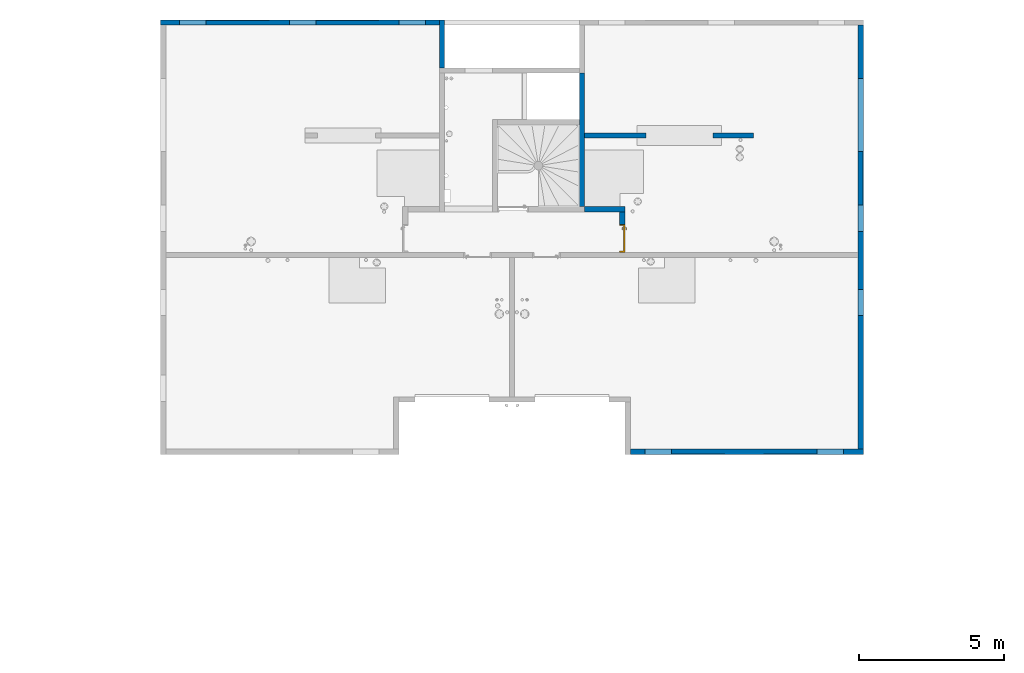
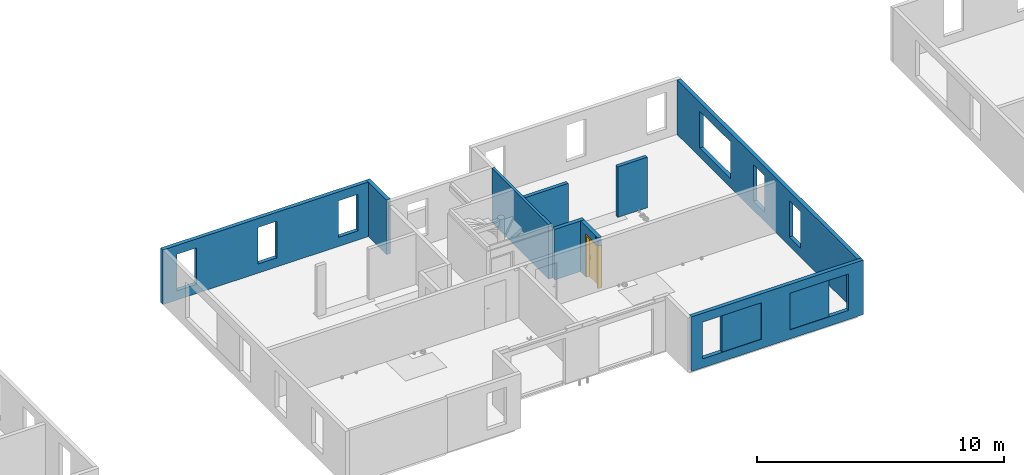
# One storey, part 10 of 24: 9 walls, 1 door, 15 openings.
"""IFC2X3 building model written with IfcOpenShell, lengths in centimetres."""

from ifc_helpers import new_model, entity, si_unit, converted_unit, derived_unit, direction, frame, frame_2d, origin, place, context, subcontext, project, spatial, polyline, rectangle, extrude, clip, bounded_halfspace, faceted_brep, source, transform, mapped, material, material_list, layer, layer_set, layer_usage, type_object, type_shapes, element, fill, save


model = new_model("IFC2X3")

# Units and contexts
model_context = context("Model", 3, precision=0.001, world=origin(), true_north=direction((6.12303176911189e-17, 1.0)))
body_context = subcontext(model_context, "Body", "Model", "MODEL_VIEW")
ifc_project = project(units=[si_unit("LENGTHUNIT", "METRE", prefix="CENTI"), si_unit("AREAUNIT", "SQUARE_METRE"), si_unit("VOLUMEUNIT", "CUBIC_METRE"), converted_unit("PLANEANGLEUNIT", "DEGREE", entity("IfcRatioMeasure", 0.0174532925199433), si_unit("PLANEANGLEUNIT", "RADIAN"), dimensions=[0, 0, 0, 0, 0, 0, 0]), si_unit("MASSUNIT", "GRAM", prefix="KILO"), derived_unit("MASSDENSITYUNIT", [(si_unit("MASSUNIT", "GRAM", prefix="KILO"), 1), (si_unit("LENGTHUNIT", "METRE"), -3)]), si_unit("TIMEUNIT", "SECOND"), si_unit("FREQUENCYUNIT", "HERTZ"), si_unit("THERMODYNAMICTEMPERATUREUNIT", "DEGREE_CELSIUS"), derived_unit("THERMALTRANSMITTANCEUNIT", [(si_unit("MASSUNIT", "GRAM", prefix="KILO"), 1), (si_unit("THERMODYNAMICTEMPERATUREUNIT", "KELVIN"), -1), (si_unit("TIMEUNIT", "SECOND"), -3)]), derived_unit("VOLUMETRICFLOWRATEUNIT", [(si_unit("LENGTHUNIT", "METRE"), 3), (si_unit("TIMEUNIT", "SECOND"), -1)]), si_unit("ELECTRICCURRENTUNIT", "AMPERE"), si_unit("ELECTRICVOLTAGEUNIT", "VOLT"), si_unit("POWERUNIT", "WATT"), si_unit("FORCEUNIT", "NEWTON"), si_unit("ILLUMINANCEUNIT", "LUX"), si_unit("LUMINOUSFLUXUNIT", "LUMEN"), si_unit("LUMINOUSINTENSITYUNIT", "CANDELA"), derived_unit("USERDEFINED", [(si_unit("MASSUNIT", "GRAM", prefix="KILO"), -1), (si_unit("LENGTHUNIT", "METRE"), -2), (si_unit("TIMEUNIT", "SECOND"), 3), (si_unit("LUMINOUSFLUXUNIT", "LUMEN"), 1)]), derived_unit("LINEARVELOCITYUNIT", [(si_unit("LENGTHUNIT", "METRE"), 1), (si_unit("TIMEUNIT", "SECOND"), -1)]), si_unit("PRESSUREUNIT", "PASCAL"), derived_unit("USERDEFINED", [(si_unit("LENGTHUNIT", "METRE"), -2), (si_unit("MASSUNIT", "GRAM", prefix="KILO"), 1), (si_unit("TIMEUNIT", "SECOND"), -2)])], contexts=[model_context])

# Site, building, storey
site_placement = place(None, origin())
site = spatial("IfcSite", under=ifc_project, at=site_placement, Name="Default", CompositionType="ELEMENT")
building_placement = place(site_placement, origin())
building = spatial("IfcBuilding", under=site, at=building_placement, Name="CAGE 03", CompositionType="ELEMENT")
storey_placement = place(building_placement, frame((0.0, 0.0, 1150.0)))
storey = spatial("IfcBuildingStorey", under=building, at=storey_placement, Name="R+4", CompositionType="ELEMENT", Elevation=1150.0)

# Wall, openings
ifc_material_1 = material(Name="Béton, C25/30")
ifc_layer_1 = layer(ifc_material_1, 18.0)
ifc_layer_set_1 = layer_set([ifc_layer_1], Name="Mur de base:Voile BA 18")
ifc_layer_usage_1 = layer_usage(ifc_layer_set_1, "AXIS2", "POSITIVE", -9.0)
wall_type_1 = type_object("IfcWallType", Name="Mur de base:Voile BA 18", PredefinedType="STANDARD", material=ifc_layer_set_1)
wall_1_placement = place(storey_placement, frame((7489.36582014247, 3805.6606660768, 0.0)))
wall_1 = element("IfcWallStandardCase", 1, at=wall_1_placement, inside=storey, type_object=wall_type_1, material=ifc_layer_usage_1, Name="Mur de base:Voile BA 18", ObjectType="Mur de base:Voile BA 18", context=body_context, shape_type="SweptSolid", body=[
    extrude(rectangle(XDim=803.000000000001, YDim=18.0000000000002, at=frame_2d((401.500000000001, -2.8421709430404e-14), x_axis=(-1.0, 0.0))), origin(), (0.0, 0.0, 1.0), 270.0),
])
opening_1_placement = place(wall_1_placement, origin())
element("IfcOpeningElement", 2, at=opening_1_placement, cuts=wall_1, Name="Mur de base:Voile BA 18", ObjectType="Recess", context=body_context, shape_type="SweptSolid", body=[
    extrude(rectangle(XDim=181.0, YDim=184.0, at=frame_2d((-1.06581410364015e-13, 0.0), x_axis=(1.0, 0.0))), frame((234.0, -9.0, 135.5), z_axis=(0.0, 1.0, 0.0), x_axis=(0.0, 0.0, -1.0)), (0.0, 0.0, 1.0), 1.99999999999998),
])
opening_2_placement = place(wall_1_placement, origin())
element("IfcOpeningElement", 3, at=opening_2_placement, cuts=wall_1, Name="Mur de base:Voile BA 18", ObjectType="Recess", context=body_context, shape_type="SweptSolid", body=[
    extrude(rectangle(XDim=181.0, YDim=184.0, at=frame_2d((-1.06581410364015e-13, 0.0), x_axis=(1.0, 0.0))), frame((551.0, -9.0, 135.5), z_axis=(0.0, 1.0, 0.0), x_axis=(0.0, 0.0, -1.0)), (0.0, 0.0, 1.0), 1.99999999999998),
])
opening_3_placement = place(wall_1_placement, frame((-7489.36582014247, -3805.6606660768, 0.0)))
element("IfcOpeningElement", 4, at=opening_3_placement, cuts=wall_1, Name="Mur de base:Voile BA 18", ObjectType="Opening", context=body_context, shape_type="SweptSolid", body=[
    extrude(rectangle(XDim=181.0, YDim=91.0000000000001, at=frame_2d((0.0, 1.06581410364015e-13), x_axis=(0.0, 1.0))), frame((7585.86582014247, 3644.2606660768, 135.5), z_axis=(0.0, 1.0, 0.0), x_axis=(-1.0, 0.0, 0.0)), (0.0, 0.0, 1.0), 304.8),
])
opening_4_placement = place(wall_1_placement, frame((-7489.36582014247, -3805.6606660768, 0.0)))
element("IfcOpeningElement", 5, at=opening_4_placement, cuts=wall_1, Name="Mur de base:Voile BA 18", ObjectType="Opening", context=body_context, shape_type="SweptSolid", body=[
    extrude(rectangle(XDim=181.0, YDim=91.0000000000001, at=frame_2d((0.0, 1.06581410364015e-13), x_axis=(0.0, 1.0))), frame((8177.86582014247, 3644.2606660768, 135.5), z_axis=(0.0, 1.0, 0.0), x_axis=(-1.0, 0.0, 0.0)), (0.0, 0.0, 1.0), 304.8),
])

ifc_layer_usage_2 = layer_usage(ifc_layer_set_1, "AXIS2", "POSITIVE", -9.0)
wall_2_placement = place(storey_placement, frame((8283.36582014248, 3814.6606660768, 0.0), z_axis=(0.0, 0.0, 1.0), x_axis=(0.0, 1.0, 0.0)))
wall_2 = element("IfcWallStandardCase", 6, at=wall_2_placement, inside=storey, type_object=wall_type_1, material=ifc_layer_usage_2, Name="Mur de base:Voile BA 18", ObjectType="Mur de base:Voile BA 18", context=body_context, shape_type="SweptSolid", body=[
    extrude(rectangle(XDim=1461.0, YDim=17.9999999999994, at=frame_2d((730.5, -3.92574861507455e-13), x_axis=(-1.0, 0.0))), origin(), (0.0, 0.0, 1.0), 270.0),
])
opening_5_placement = place(wall_2_placement, origin())
element("IfcOpeningElement", 7, at=opening_5_placement, cuts=wall_2, Name="Mur de base:Voile BA 18", ObjectType="Recess", context=body_context, shape_type="SweptSolid", body=[
    extrude(rectangle(XDim=181.0, YDim=184.0, at=frame_2d((-1.06581410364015e-13, 0.0), x_axis=(1.0, 0.0))), frame((934.0, -9.0, 135.5), z_axis=(0.0, 1.0, 0.0), x_axis=(0.0, 0.0, -1.0)), (0.0, 0.0, 1.0), 1.99999999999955),
])
opening_6_placement = place(wall_2_placement, frame((-3814.6606660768, 8283.36582014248, 0.0), z_axis=(0.0, 0.0, 1.0), x_axis=(0.0, -1.0, 0.0)))
element("IfcOpeningElement", 8, at=opening_6_placement, cuts=wall_2, Name="Mur de base:Voile BA 18", ObjectType="Opening", context=body_context, shape_type="SweptSolid", body=[
    extrude(rectangle(XDim=181.0, YDim=91.0000000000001, at=frame_2d((-2.1316282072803e-13, 0.0), x_axis=(1.0, 0.0))), frame((8426.76582014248, 4611.1606660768, 135.5), z_axis=(-1.0, 0.0, 0.0), x_axis=(0.0, 0.0, 1.0)), (0.0, 0.0, 1.0), 304.8),
])
opening_7_placement = place(wall_2_placement, frame((-3814.6606660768, 8283.36582014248, 0.0), z_axis=(0.0, 0.0, 1.0), x_axis=(0.0, -1.0, 0.0)))
element("IfcOpeningElement", 9, at=opening_7_placement, cuts=wall_2, Name="Mur de base:Voile BA 18", ObjectType="Opening", context=body_context, shape_type="SweptSolid", body=[
    extrude(rectangle(XDim=181.0, YDim=251.0, at=frame_2d((-2.1316282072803e-13, 0.0), x_axis=(1.0, 0.0))), frame((8426.76582014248, 4966.1606660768, 135.5), z_axis=(-1.0, 0.0, 0.0), x_axis=(0.0, 0.0, 1.0)), (0.0, 0.0, 1.0), 304.8),
])
opening_8_placement = place(wall_2_placement, frame((-3814.6606660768, 8283.36582014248, 0.0), z_axis=(0.0, 0.0, 1.0), x_axis=(0.0, -1.0, 0.0)))
element("IfcOpeningElement", 10, at=opening_8_placement, cuts=wall_2, Name="Mur de base:Voile BA 18", ObjectType="Opening", context=body_context, shape_type="SweptSolid", body=[
    extrude(rectangle(XDim=181.0, YDim=91.0000000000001, at=frame_2d((-2.1316282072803e-13, 0.0), x_axis=(1.0, 0.0))), frame((8426.76582014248, 4320.1606660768, 135.5), z_axis=(-1.0, 0.0, 0.0), x_axis=(0.0, 0.0, 1.0)), (0.0, 0.0, 1.0), 304.8),
])

# Wall
ifc_layer_usage_3 = layer_usage(ifc_layer_set_1, "AXIS2", "POSITIVE", -9.0)
wall_3_placement = place(storey_placement, frame((6840.36582014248, 5128.6606660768, 0.0), z_axis=(0.0, 0.0, 1.0), x_axis=(0.0, 1.0, 0.0)))
element("IfcWallStandardCase", 11, at=wall_3_placement, inside=storey, type_object=wall_type_1, material=ifc_layer_usage_3, Name="Mur de base:Voile BA 18", ObjectType="Mur de base:Voile BA 18", context=body_context, shape_type="SweptSolid", body=[
    extrude(rectangle(XDim=165.000000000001, YDim=17.9999999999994, at=frame_2d((82.5000000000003, 1.77635683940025e-15), x_axis=(-1.0, 0.0))), origin(), (0.0, 0.0, 1.0), 270.0),
])

# Wall, openings
ifc_layer_usage_4 = layer_usage(ifc_layer_set_1, "AXIS2", "POSITIVE", -9.0)
wall_4_placement = place(storey_placement, frame((6831.36582014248, 5284.6606660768, 0.0), z_axis=(0.0, 0.0, 1.0), x_axis=(-1.0, 0.0, 0.0)))
wall_4 = element("IfcWallStandardCase", 12, at=wall_4_placement, inside=storey, type_object=wall_type_1, material=ifc_layer_usage_4, Name="Mur de base:Voile BA 18", ObjectType="Mur de base:Voile BA 18", context=body_context, shape_type="SweptSolid", body=[
    extrude(rectangle(XDim=961.0, YDim=17.9999999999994, at=frame_2d((480.5, -1.03028696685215e-13), x_axis=(-1.0, 0.0))), origin(), (0.0, 0.0, 1.0), 270.0),
])
opening_9_placement = place(wall_4_placement, origin())
element("IfcOpeningElement", 13, at=opening_9_placement, cuts=wall_4, Name="Mur de base:Voile BA 18", ObjectType="Recess", context=body_context, shape_type="SweptSolid", body=[
    extrude(rectangle(XDim=181.0, YDim=218.0, at=frame_2d((4.33431068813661e-13, -1.06581410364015e-13), x_axis=(0.0, 1.0))), frame((695.0, -9.0, 135.5), z_axis=(0.0, 1.0, 0.0), x_axis=(1.0, 0.0, 0.0)), (0.0, 0.0, 1.0), 1.99999999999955),
])
opening_10_placement = place(wall_4_placement, origin())
element("IfcOpeningElement", 14, at=opening_10_placement, cuts=wall_4, Name="Mur de base:Voile BA 18", ObjectType="Recess", context=body_context, shape_type="SweptSolid", body=[
    extrude(rectangle(XDim=181.0, YDim=218.0, at=frame_2d((4.33431068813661e-13, -1.06581410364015e-13), x_axis=(0.0, 1.0))), frame((317.0, -9.0, 135.5), z_axis=(0.0, 1.0, 0.0), x_axis=(1.0, 0.0, 0.0)), (0.0, 0.0, 1.0), 1.99999999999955),
])
opening_11_placement = place(wall_4_placement, frame((6831.36582014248, 5284.6606660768, 0.0), z_axis=(0.0, 0.0, 1.0), x_axis=(-1.0, 0.0, 0.0)))
element("IfcOpeningElement", 15, at=opening_11_placement, cuts=wall_4, Name="Mur de base:Voile BA 18", ObjectType="Opening", context=body_context, shape_type="SweptSolid", body=[
    extrude(rectangle(XDim=181.0, YDim=91.0000000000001, at=frame_2d((0.0, 0.0), x_axis=(0.0, 1.0))), frame((5981.86582014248, 5428.0606660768, 135.5), z_axis=(0.0, -1.0, 0.0), x_axis=(1.0, 0.0, 0.0)), (0.0, 0.0, 1.0), 304.8),
])
opening_12_placement = place(wall_4_placement, frame((6831.36582014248, 5284.6606660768, 0.0), z_axis=(0.0, 0.0, 1.0), x_axis=(-1.0, 0.0, 0.0)))
element("IfcOpeningElement", 16, at=opening_12_placement, cuts=wall_4, Name="Mur de base:Voile BA 18", ObjectType="Opening", context=body_context, shape_type="SweptSolid", body=[
    extrude(rectangle(XDim=181.0, YDim=91.0000000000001, at=frame_2d((0.0, 0.0), x_axis=(0.0, 1.0))), frame((6359.86582014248, 5428.0606660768, 135.5), z_axis=(0.0, -1.0, 0.0), x_axis=(1.0, 0.0, 0.0)), (0.0, 0.0, 1.0), 304.8),
])
opening_13_placement = place(wall_4_placement, frame((6831.36582014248, 5284.6606660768, 0.0), z_axis=(0.0, 0.0, 1.0), x_axis=(-1.0, 0.0, 0.0)))
element("IfcOpeningElement", 17, at=opening_13_placement, cuts=wall_4, Name="Mur de base:Voile BA 18", ObjectType="Opening", context=body_context, shape_type="SweptSolid", body=[
    extrude(rectangle(XDim=181.0, YDim=91.0000000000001, at=frame_2d((0.0, 1.06581410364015e-13), x_axis=(0.0, 1.0))), frame((6737.86582014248, 5428.0606660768, 135.5), z_axis=(0.0, -1.0, 0.0), x_axis=(1.0, 0.0, 0.0)), (0.0, 0.0, 1.0), 304.8),
])

# Wall, openings, door
ifc_layer_usage_5 = layer_usage(ifc_layer_set_1, "AXIS2", "NEGATIVE", 9.0)
wall_5_placement = place(storey_placement, frame((7461.36582014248, 4632.6606660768, 0.0), z_axis=(0.0, 0.0, 1.0), x_axis=(0.0, -1.0, 0.0)))
wall_5 = element("IfcWallStandardCase", 18, at=wall_5_placement, inside=storey, type_object=wall_type_1, material=ifc_layer_usage_5, Name="Mur de base:Voile BA 18", ObjectType="Mur de base:Voile BA 18", context=body_context, shape_type="SweptSolid", body=[
    extrude(rectangle(XDim=140.000000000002, YDim=17.9999999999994, at=frame_2d((70.000000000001, 0.0), x_axis=(-1.0, 0.0))), origin(), (0.0, 0.0, 1.0), 250.0),
])
opening_14_placement = place(wall_5_placement, origin())
element("IfcOpeningElement", 19, at=opening_14_placement, cuts=wall_5, Name="Mur de base:Voile BA 18", ObjectType="Opening", context=body_context, shape_type="SweptSolid", body=[
    extrude(rectangle(XDim=9.99999999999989, YDim=19.9999999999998, at=frame_2d((-4.33431068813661e-13, -2.16715534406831e-13), x_axis=(0.0, 1.0))), frame((130.0, -9.0, 242.5), z_axis=(0.0, 1.0, 0.0), x_axis=(1.0, 0.0, 0.0)), (0.0, 0.0, 1.0), 17.9999999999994),
])
opening_15_placement = place(wall_5_placement, frame((43.0, -9.0, 0.0)))
opening_15 = element("IfcOpeningElement", 20, at=opening_15_placement, cuts=wall_5, Name="Int. Simple:HB93:1", ObjectType="Opening", context=body_context, shape_type="SweptSolid", body=[
    extrude(rectangle(XDim=210.000000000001, YDim=96.9999999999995, at=frame_2d((105.000000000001, 48.4999999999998), x_axis=(1.0, 0.0))), frame((0.0, 0.0, 0.0), z_axis=(0.0, 1.0, 0.0), x_axis=(0.0, 0.0, 1.0)), (0.0, 0.0, 1.0), 18.0),
])
ifc_material_2 = material(Name="Finition Peinture - Blanc satiné")
ifc_material_3 = material(Name="Bois - Panneau de porte")
ifc_material_4 = material(Name="Bois - Cadre de porte")
ifc_material_list_1 = material_list([ifc_material_2, ifc_material_3, ifc_material_4])
ifc_material_list_2 = material_list([ifc_material_2, ifc_material_3, ifc_material_4])
door_style = type_object("IfcDoorStyle", Name="HB93", ConstructionType="NOTDEFINED", OperationType="SINGLE_SWING_RIGHT", ParameterTakesPrecedence=False, Sizeable=False, material=ifc_material_list_2)
shared_shape = source(origin(), body_context, "Body", "Brep", [
    faceted_brep([(96.5000000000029, -0.500000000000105, 87.0), (96.5000000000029, -0.500000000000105, 108.0), (95.535276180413, -0.500000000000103, 108.399601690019), (94.5000000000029, -0.500000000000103, 108.535898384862), (93.4647238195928, -0.500000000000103, 108.399601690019), (92.5000000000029, -0.500000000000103, 108.0), (92.5000000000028, -0.500000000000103, 87.0), (93.4647238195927, -0.500000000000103, 86.6003983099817), (94.5000000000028, -0.500000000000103, 86.464101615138), (95.5352761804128, -0.500000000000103, 86.6003983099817), (96.5000000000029, 0.0, 108.0), (96.5000000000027, 0.0, 87.0), (95.5352761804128, 0.0, 86.6003983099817), (94.5000000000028, 0.0, 86.464101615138), (93.4647238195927, 0.0, 86.6003983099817), (92.5000000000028, 0.0, 87.0), (92.5000000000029, 0.0, 108.0), (93.4647238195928, 0.0, 108.399601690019), (94.5000000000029, 0.0, 108.535898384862), (95.535276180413, 0.0, 108.399601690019)], [[[0, 1, 2, 3, 4, 5, 6, 7, 8, 9]], [[10, 11, 12, 13, 14, 15, 16, 17, 18, 19]], [[9, 12, 11, 0]], [[8, 13, 12, 9]], [[7, 14, 13, 8]], [[7, 6, 15, 14]], [[15, 6, 5, 16]], [[4, 17, 16, 5]], [[3, 18, 17, 4]], [[2, 19, 18, 3]], [[2, 1, 10, 19]], [[11, 10, 1, 0]]]),
    faceted_brep([(96.5000000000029, 4.0, 87.0), (96.5000000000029, 4.0, 108.0), (95.535276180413, 4.0, 108.399601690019), (94.5000000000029, 4.0, 108.535898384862), (93.4647238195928, 4.0, 108.399601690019), (92.500000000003, 4.0, 108.0), (92.5000000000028, 4.0, 87.0), (93.4647238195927, 4.0, 86.6003983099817), (94.5000000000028, 4.0, 86.464101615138), (95.5352761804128, 4.0, 86.6003983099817), (94.5000000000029, 4.49999999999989, 108.535898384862), (95.535276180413, 4.49999999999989, 108.399601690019), (96.5000000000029, 4.49999999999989, 108.0), (96.5000000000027, 4.49999999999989, 87.0), (95.5352761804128, 4.49999999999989, 86.6003983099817), (94.5000000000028, 4.49999999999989, 86.464101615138), (93.4647238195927, 4.49999999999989, 86.6003983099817), (92.5000000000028, 4.4999999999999, 87.0), (92.5000000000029, 4.4999999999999, 108.0), (93.4647238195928, 4.49999999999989, 108.399601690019)], [[[0, 1, 2, 3, 4, 5, 6, 7, 8, 9]], [[10, 11, 12, 13, 14, 15, 16, 17, 18, 19]], [[4, 19, 18, 5]], [[3, 10, 19, 4]], [[2, 11, 10, 3]], [[2, 1, 12, 11]], [[13, 12, 1, 0]], [[9, 14, 13, 0]], [[8, 15, 14, 9]], [[7, 16, 15, 8]], [[7, 6, 17, 16]], [[17, 6, 5, 18]]]),
    faceted_brep([(94.2974701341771, -0.500000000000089, 100.778044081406), (94.7025298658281, -0.500000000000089, 100.778044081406), (95.100000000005, -0.500000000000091, 100.699999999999), (95.100000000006, -0.500000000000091, 99.2999999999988), (94.7025298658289, -0.500000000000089, 99.221955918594), (94.297470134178, -0.500000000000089, 99.2219559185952), (93.9000000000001, -0.500000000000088, 99.3000000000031), (93.9000000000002, -0.500000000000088, 100.7), (94.7025298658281, -3.10045754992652, 100.778044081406), (95.1000000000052, -3.26509507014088, 100.7), (94.2974701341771, -2.93267631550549, 100.778044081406), (92.9298602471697, -4.30028620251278, 100.778044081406), (93.0976414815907, -4.70534593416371, 100.778044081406), (93.9000000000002, -2.76803879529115, 100.7), (93.9000000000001, -2.76803879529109, 99.3000000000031), (94.297470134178, -2.93267631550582, 99.2219559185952), (94.7025298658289, -3.10045754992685, 99.221955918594), (93.0976414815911, -4.70534593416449, 99.221955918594), (92.9298602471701, -4.30028620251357, 99.2219559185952), (95.100000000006, -3.26509507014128, 99.2999999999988), (93.2622790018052, -5.1028160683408, 100.7), (92.7652227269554, -3.90281606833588, 100.7), (92.7652227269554, -3.90281606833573, 99.3000000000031), (93.2622790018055, -5.10281606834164, 99.2999999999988), (84.4981359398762, -5.10281606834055, 100.7), (84.4981359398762, -4.70534593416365, 100.778044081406), (84.4981359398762, -4.30028620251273, 100.778044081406), (84.4981359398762, -3.90281606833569, 100.699999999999), (84.4981359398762, -3.90281606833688, 99.3000000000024), (84.4981359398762, -4.30028620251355, 99.2219559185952), (84.4981359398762, -4.70534593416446, 99.221955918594), (84.4981359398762, -5.10281606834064, 99.2999999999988), (88.7139980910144, -4.5028160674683, 100.78786867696), (89.2692302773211, -5.1028160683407, 100.7), (88.6316793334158, -3.90281606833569, 100.7), (88.631679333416, -3.90281606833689, 99.3000000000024), (88.7139981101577, -4.50281607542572, 99.2121313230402), (89.2692310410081, -5.10281606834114, 99.2999999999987)], [[[0, 1, 2, 3, 4, 5, 6, 7]], [[2, 1, 8, 9]], [[1, 0, 10, 11, 12, 8]], [[0, 7, 13, 10]], [[14, 13, 7, 6]], [[5, 15, 14, 6]], [[5, 4, 16, 17, 18, 15]], [[3, 19, 16, 4]], [[9, 19, 3, 2]], [[9, 8, 12, 20]], [[10, 13, 21, 11]], [[22, 21, 13, 14]], [[14, 15, 18, 22]], [[16, 19, 23, 17]], [[20, 23, 19, 9]], [[24, 25, 26, 27, 28, 29, 30, 31]], [[32, 25, 33]], [[33, 25, 24]], [[33, 20, 12]], [[11, 34, 32]], [[34, 11, 21]], [[27, 26, 34]], [[32, 26, 25]], [[32, 34, 26]], [[32, 33, 12]], [[11, 32, 12]], [[21, 22, 35, 28, 27, 34]], [[36, 29, 35]], [[30, 36, 37]], [[18, 35, 22]], [[29, 28, 35]], [[30, 37, 31]], [[37, 17, 23]], [[36, 17, 37]], [[36, 18, 17]], [[36, 35, 18]], [[29, 36, 30]], [[23, 20, 33, 24, 31, 37]]]),
    faceted_brep([(94.2974701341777, 4.49999999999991, 99.2219559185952), (94.7025298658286, 4.49999999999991, 99.221955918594), (95.1000000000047, 4.49999999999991, 99.2999999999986), (95.1000000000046, 4.49999999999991, 100.7), (94.7025298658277, 4.49999999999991, 100.778044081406), (94.2974701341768, 4.49999999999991, 100.778044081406), (93.8999999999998, 4.49999999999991, 100.7), (93.900000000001, 4.49999999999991, 99.3000000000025), (93.8999999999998, 6.7485204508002, 100.7), (93.8999999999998, 6.74852045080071, 99.3000000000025), (94.2974701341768, 6.91315797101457, 100.778044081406), (94.7025298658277, 7.0809392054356, 100.778044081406), (93.0838906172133, 8.69957845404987, 100.778044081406), (92.9161093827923, 8.29451872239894, 100.778044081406), (95.1000000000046, 7.24557672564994, 100.7), (95.1000000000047, 7.24557672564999, 99.2999999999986), (94.7025298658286, 7.08093920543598, 99.221955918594), (94.2974701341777, 6.91315797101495, 99.2219559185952), (92.9161093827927, 8.29451872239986, 99.2219559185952), (93.0838906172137, 8.69957845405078, 99.221955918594), (92.751471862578, 7.89704858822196, 100.7), (92.7514718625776, 7.89704858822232, 99.3000000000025), (93.2485281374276, 9.09704858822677, 100.7), (93.2485281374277, 9.09704858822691, 99.2999999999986), (84.4954216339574, 8.29451872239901, 100.778044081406), (84.4954216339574, 8.69957845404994, 100.778044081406), (84.4954216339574, 9.09704858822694, 100.7), (84.4954216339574, 9.09704858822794, 99.2999999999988), (84.4954216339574, 8.6995784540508, 99.221955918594), (84.4954216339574, 8.29451872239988, 99.2219559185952), (84.4954216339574, 7.89704858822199, 99.3000000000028), (84.4954216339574, 7.89704858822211, 100.7), (88.6234467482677, 7.89704858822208, 100.7), (88.6234479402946, 7.89704858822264, 99.3000000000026), (88.7057655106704, 8.49704858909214, 100.78786867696), (89.255479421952, 9.09704858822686, 100.7), (89.2554795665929, 9.09704858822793, 99.2999999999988), (88.7057654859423, 8.49704858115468, 99.2121313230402)], [[[0, 1, 2, 3, 4, 5, 6, 7]], [[8, 9, 7, 6]], [[5, 10, 8, 6]], [[5, 4, 11, 12, 13, 10]], [[3, 14, 11, 4]], [[14, 3, 2, 15]], [[2, 1, 16, 15]], [[1, 0, 17, 18, 19, 16]], [[0, 7, 9, 17]], [[20, 21, 9, 8]], [[8, 10, 13, 20]], [[14, 22, 12, 11]], [[23, 22, 14, 15]], [[15, 16, 19, 23]], [[17, 9, 21, 18]], [[24, 25, 26, 27, 28, 29, 30, 31]], [[21, 20, 32, 31, 30, 33]], [[34, 24, 32]], [[25, 34, 35]], [[13, 32, 20]], [[24, 31, 32]], [[25, 35, 26]], [[35, 12, 22]], [[34, 12, 35]], [[34, 13, 12]], [[34, 32, 13]], [[24, 34, 25]], [[22, 23, 36, 27, 26, 35]], [[37, 28, 36]], [[36, 28, 27]], [[36, 23, 19]], [[18, 33, 37]], [[33, 18, 21]], [[30, 29, 33]], [[37, 29, 28]], [[37, 33, 29]], [[37, 36, 19]], [[18, 37, 19]]]),
    faceted_brep([(100.500000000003, 4.0, 206.5), (100.500000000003, 4.0, 0.0), (10.5000000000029, 4.0, 0.0), (10.5000000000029, 4.0, 206.5), (100.500000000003, 0.0, 206.5), (10.5000000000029, 0.0, 206.5), (10.5000000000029, 0.0, 0.0), (100.500000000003, 0.0, 0.0)], [[[0, 1, 2, 3]], [[4, 5, 6, 7]], [[3, 5, 4, 0]], [[2, 6, 5, 3]], [[1, 7, 6, 2]], [[0, 4, 7, 1]]]),
    faceted_brep([(104.0, 0.0, 0.0), (100.500000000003, 0.0, 0.0), (100.500000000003, 4.0, 0.0), (99.0, 4.0, 0.0), (99.0, 18.0, 0.0), (104.0, 18.0, 0.0), (104.0, 18.0, 210.0), (104.0, 0.0, 210.0), (99.0, 18.0, 205.0), (12.0, 18.0, 205.0), (12.0, 18.0, 0.0), (7.0, 18.0, 0.0), (7.0, 18.0, 210.0), (99.0, 4.0, 205.0), (100.500000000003, 4.0, 206.5), (10.5000000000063, 4.0, 206.5), (10.5000000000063, 4.0, 0.0), (12.0, 4.0, 0.0), (12.0, 4.0, 205.0), (100.500000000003, 0.0, 206.5), (7.0, 0.0, 210.0), (7.0, 0.0, 0.0), (10.5000000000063, 0.0, 0.0), (10.5000000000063, 0.0, 206.5)], [[[0, 1, 2, 3, 4, 5]], [[5, 6, 7, 0]], [[4, 8, 9, 10, 11, 12, 6, 5]], [[3, 13, 8, 4]], [[2, 14, 15, 16, 17, 18, 13, 3]], [[1, 19, 14, 2]], [[0, 7, 20, 21, 22, 23, 19, 1]], [[12, 11, 21, 20]], [[21, 11, 10, 17, 16, 22]], [[18, 17, 10, 9]], [[23, 22, 16, 15]], [[6, 12, 20, 7]], [[13, 18, 9, 8]], [[19, 23, 15, 14]]]),
    faceted_brep([(102.500000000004, 18.0, 0.0), (102.500000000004, 18.5000000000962, 0.0), (105.500000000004, 18.5000000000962, 0.0), (105.500000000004, 18.0, 0.0), (105.500000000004, 18.0, 211.500000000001), (5.50000000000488, 18.0, 211.500000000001), (5.50000000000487, 18.0, 0.0), (8.50000000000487, 18.0, 0.0), (8.50000000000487, 18.0, 208.500000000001), (102.500000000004, 18.0, 208.500000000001), (105.500000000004, 18.5000000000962, 211.500000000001), (102.500000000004, 18.5000000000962, 208.500000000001), (8.50000000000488, 18.5000000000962, 208.500000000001), (8.50000000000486, 18.5000000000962, 0.0), (5.50000000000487, 18.5000000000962, 0.0), (5.50000000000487, 18.5000000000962, 211.500000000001)], [[[0, 1, 2, 3]], [[3, 4, 5, 6, 7, 8, 9, 0]], [[2, 10, 4, 3]], [[1, 11, 12, 13, 14, 15, 10, 2]], [[0, 9, 11, 1]], [[7, 6, 14, 13]], [[8, 7, 13, 12]], [[15, 14, 6, 5]], [[10, 15, 5, 4]], [[9, 8, 12, 11]]]),
    faceted_brep([(105.500000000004, -0.5, 0.0), (105.500000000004, -0.5, 211.500000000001), (5.50000000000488, -0.5, 211.500000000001), (5.50000000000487, -0.5, 0.0), (8.50000000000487, -0.5, 0.0), (8.50000000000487, -0.5, 208.500000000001), (102.500000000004, -0.5, 208.500000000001), (102.500000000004, -0.5, 0.0), (105.500000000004, 0.0, 0.0), (105.500000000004, 0.0, 211.500000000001), (102.500000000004, 0.0, 0.0), (102.500000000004, 0.0, 208.500000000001), (8.50000000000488, 0.0, 208.500000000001), (8.50000000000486, 0.0, 0.0), (5.50000000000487, 0.0, 0.0), (5.50000000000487, 0.0, 211.500000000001)], [[[0, 1, 2, 3, 4, 5, 6, 7]], [[8, 9, 1, 0]], [[10, 11, 12, 13, 14, 15, 9, 8]], [[7, 6, 11, 10]], [[5, 4, 13, 12]], [[15, 14, 3, 2]], [[9, 15, 2, 1]], [[6, 5, 12, 11]], [[4, 3, 14, 13]], [[7, 10, 8, 0]]]),
])
type_shapes(door_style, [shared_shape])
door_placement = place(opening_15_placement, frame((104.0, 18.0, 0.0), z_axis=(0.0, 0.0, 1.0), x_axis=(-1.0, 0.0, 0.0)))
door = element("IfcDoor", 21, at=door_placement, inside=storey, type_object=door_style, material=ifc_material_list_1, Name="Int. Simple:HB93", ObjectType="HB93", OverallHeight=210.000000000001, OverallWidth=96.9999999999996, context=body_context, shape_type="MappedRepresentation", body=[
    mapped(shared_shape, transform((0.0, 0.0, 0.0), scale=1.0)),
])
fill(opening_15, door)

# Walls
ifc_layer_usage_6 = layer_usage(ifc_layer_set_1, "AXIS2", "NEGATIVE", 9.0)
wall_6_placement = place(storey_placement, frame((7331.36582014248, 4641.6606660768, 0.0)))
element("IfcWallStandardCase", 22, at=wall_6_placement, inside=storey, type_object=wall_type_1, material=ifc_layer_usage_6, Name="Mur de base:Voile BA 18", ObjectType="Mur de base:Voile BA 18", context=body_context, shape_type="SweptSolid", body=[
    extrude(rectangle(XDim=138.999999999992, YDim=17.9999999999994, at=frame_2d((69.4999999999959, -4.17443857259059e-14), x_axis=(-1.0, 0.0))), origin(), (0.0, 0.0, 1.0), 250.0),
])
ifc_material_5 = material(Name="Béton, panneaux préfa 30/37")
ifc_layer_2 = layer(ifc_material_5, 5.5)
ifc_layer_3 = layer(ifc_material_1, 7.0)
ifc_layer_4 = layer(ifc_material_5, 5.5)
ifc_layer_set_2 = layer_set([ifc_layer_2, ifc_layer_3, ifc_layer_4], Name="Mur de base:premur 18")
ifc_layer_usage_7 = layer_usage(ifc_layer_set_2, "AXIS2", "POSITIVE", -9.0)
wall_type_2 = type_object("IfcWallType", Name="Mur de base:premur 18", PredefinedType="NOTDEFINED")
wall_7_placement = place(storey_placement, frame((7322.36582014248, 4650.6606660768, 0.0), z_axis=(0.0, 0.0, 1.0), x_axis=(0.0, 1.0, 0.0)))
element("IfcWallStandardCase", 23, at=wall_7_placement, inside=storey, type_object=wall_type_2, material=ifc_layer_usage_7, Name="Mur de base:premur 18", ObjectType="Mur de base:premur 18", context=body_context, shape_type="Clipping", body=[
    clip(clip(extrude(rectangle(XDim=459.999999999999, YDim=17.9999999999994, at=frame_2d((230.0, 7.72715225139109e-14), x_axis=(-1.0, 0.0))), origin(), (0.0, 0.0, 1.0), 270.0), bounded_halfspace(frame((460.0, -3.49999999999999, 250.0), z_axis=(0.0, 0.0, -1.0), x_axis=(0.0, 1.0, 0.0)), True, frame((460.0, -3.49999999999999, 250.0), z_axis=(0.0, 0.0, -1.0), x_axis=(0.0, 1.0, 0.0)), polyline([(0.0, 0.0), (-5.50000000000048, 0.0), (-5.50000000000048, -207.0), (-5.50000000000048, -223.0), (-5.49999999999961, -460.0), (0.0, -460.0), (0.0, 0.0)]))), bounded_halfspace(frame((0.0, -3.50000000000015, 250.0), z_axis=(0.0, 1.0, 0.0), x_axis=(0.0, 0.0, 1.0)), True, frame((0.0, -3.50000000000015, 250.0), z_axis=(0.0, 1.0, 0.0), x_axis=(0.0, 0.0, 1.0)), polyline([(0.0, 0.0), (20.0, 0.0), (20.0, 460.0), (0.0, 460.0), (0.0, 0.0)]))),
])
ifc_layer_5 = layer(ifc_material_1, 16.0)
ifc_layer_set_3 = layer_set([ifc_layer_5], Name="Mur de base:Voile BA 16")
ifc_layer_usage_8 = layer_usage(ifc_layer_set_3, "AXIS2", "NEGATIVE", 8.0)
wall_type_3 = type_object("IfcWallType", Name="Mur de base:Voile BA 16", PredefinedType="STANDARD", material=ifc_layer_set_3)
wall_8_placement = place(storey_placement, frame((7331.36582014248, 4895.6606660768, 0.0)))
element("IfcWallStandardCase", 24, at=wall_8_placement, inside=storey, type_object=wall_type_3, material=ifc_layer_usage_8, Name="Mur de base:Voile BA 16", ObjectType="Mur de base:Voile BA 16", context=body_context, shape_type="SweptSolid", body=[
    extrude(rectangle(XDim=211.0, YDim=15.9999999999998, at=frame_2d((105.5, -1.4122036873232e-13), x_axis=(-1.0, 0.0))), origin(), (0.0, 0.0, 1.0), 250.0),
])
ifc_layer_usage_9 = layer_usage(ifc_layer_set_3, "AXIS2", "NEGATIVE", 8.0)
wall_9_placement = place(storey_placement, frame((7773.86582014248, 4895.6606660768, 0.0)))
element("IfcWallStandardCase", 25, at=wall_9_placement, inside=storey, type_object=wall_type_3, material=ifc_layer_usage_9, Name="Mur de base:Voile BA 16", ObjectType="Mur de base:Voile BA 16", context=body_context, shape_type="SweptSolid", body=[
    extrude(rectangle(XDim=139.0, YDim=15.9999999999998, at=frame_2d((69.5000000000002, 1.02140518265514e-14), x_axis=(-1.0, 0.0))), origin(), (0.0, 0.0, 1.0), 250.0),
])

save(model, "model.ifc")
